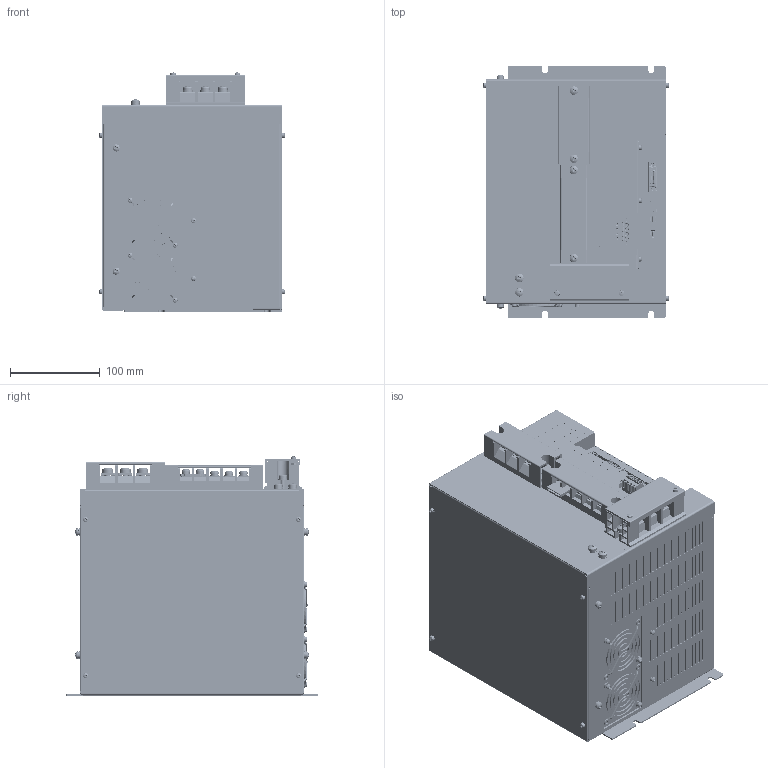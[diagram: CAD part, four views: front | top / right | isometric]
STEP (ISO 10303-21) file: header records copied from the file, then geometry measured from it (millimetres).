
FILE_DESCRIPTION (( 'STEP AP203' ), '1' );
FILE_NAME ('NCR-HE2_153#SE-94850.STEP', '2021-07-13T06:39:05', ( '' ), ( '' ), 'SwSTEP 2.0', 'SolidWorks 2018', '' );
FILE_SCHEMA (( 'CONFIG_CONTROL_DESIGN' ));
Products named in the file (1): NCR-HE2_153#SE-94850
Bounding box: 207.11 x 280 x 265.98 mm (x, y, z)
Volume: 11519740.6 mm3; surface area: 471660.4 mm2
Topology: 5 solids, 92 shells, 15484 faces, 41769 edges, 27202 vertices
Faces by surface type: plane 9919, cylinder 2712, bspline 1769, cone 686, torus 282, sphere 116
Entity records: 545300 total; most frequent: CARTESIAN_POINT 167074, ORIENTED_EDGE 83354, DIRECTION 70705, EDGE_CURVE 41677, LINE 27985, VECTOR 27985, VERTEX_POINT 27202, AXIS2_PLACEMENT_3D 21360
